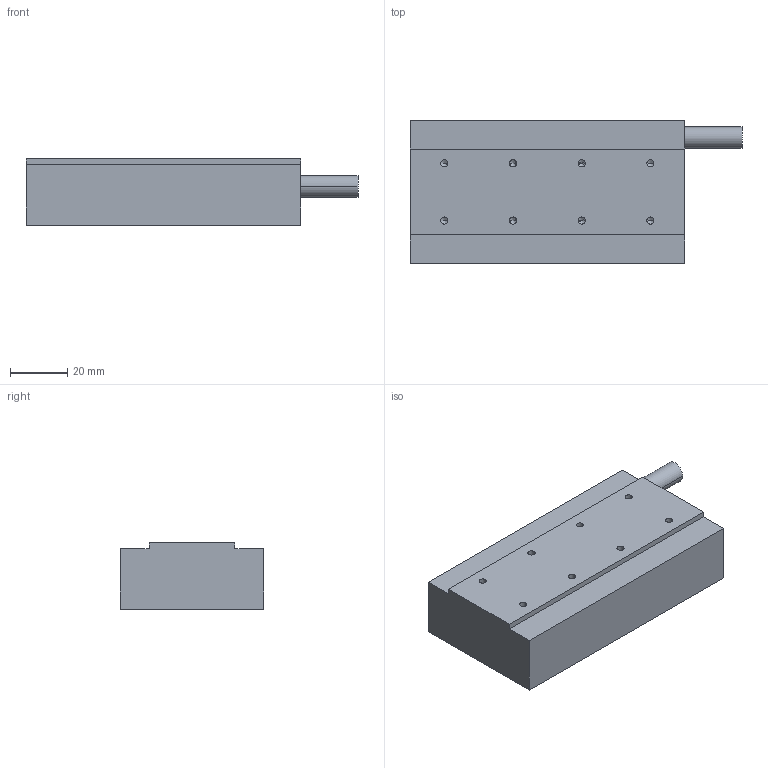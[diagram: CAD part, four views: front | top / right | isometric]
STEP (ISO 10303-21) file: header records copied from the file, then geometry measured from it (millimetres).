
FILE_DESCRIPTION (( 'STEP AP214' ), '1' );
FILE_NAME ('A-CJM030B-02.STEP', '2025-09-05T09:12:48', ( '' ), ( '' ), 'SwSTEP 2.0', 'SolidWorks 2016', '' );
FILE_SCHEMA (( 'AUTOMOTIVE_DESIGN' ));
Length unit declared in the file: millimetre
Products named in the file (1): A-CJM030B-02
Bounding box: 116 x 50 x 23.2 mm (x, y, z)
Volume: 108050.9 mm3; surface area: 17344.1 mm2
Topology: 1 solids, 1 shells, 69 faces, 166 edges, 88 vertices
Faces by surface type: cone 32, cylinder 26, plane 11
Entity records: 2070 total; most frequent: DIRECTION 342, CARTESIAN_POINT 300, ORIENTED_EDGE 284, EDGE_CURVE 142, AXIS2_PLACEMENT_3D 130, VERTEX_POINT 88, LINE 82, VECTOR 82
